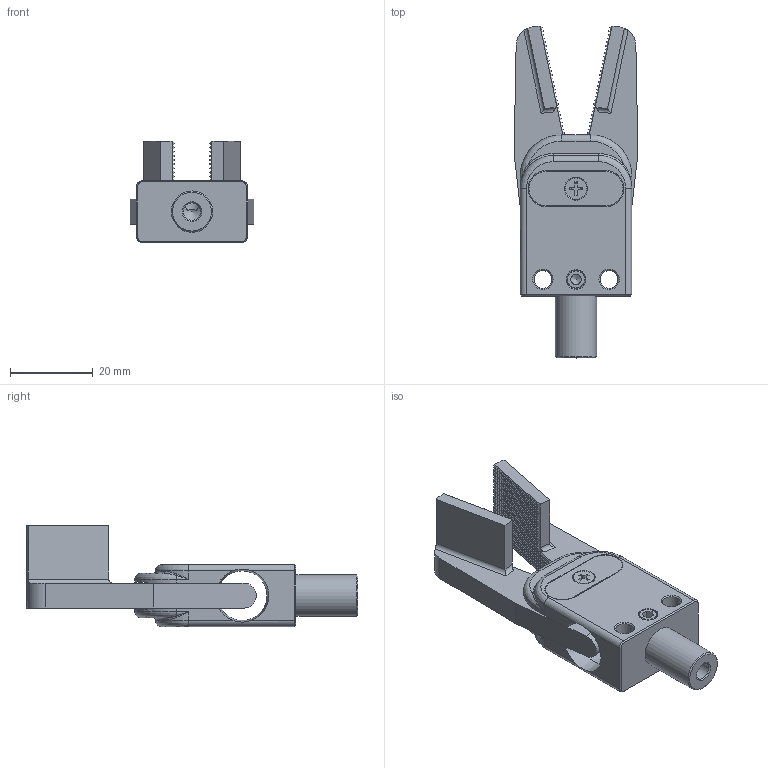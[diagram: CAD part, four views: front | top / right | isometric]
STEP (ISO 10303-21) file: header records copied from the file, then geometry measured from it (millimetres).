
FILE_DESCRIPTION(/* description */ (''),/* implementation_level */ '2;1');
FILE_NAME(/* name */ '_model1.stp',/* time_stamp */ '2023-03-08T11:59:50+08:00',/* author */ (''),/* organization */ (''),/* preprocessor_version */ 'ST-DEVELOPER v16',/* originating_system */ 'SIEMENS PLM Software NX 10.0',/* authorisation */ '');
FILE_SCHEMA (('AUTOMOTIVE_DESIGN { 1 0 10303 214 3 1 1 1 }'));
Products named in the file (1): Admi115498B06ivi
Bounding box: 29.99 x 80.35 x 24.5 mm (x, y, z)
Volume: 16793.8 mm3; surface area: 9708.1 mm2
Topology: 1 solids, 12 shells, 3229 faces, 9533 edges, 6327 vertices
Faces by surface type: plane 3106, cylinder 64, cone 39, revolution 12, bspline 8
Full cylindrical faces by diameter (mm): 2.2 x2, 2.5 x1, 3 x3, 3.5 x1, 4.2 x2, 4.3 x2, 5.2 x1, 10 x1, 12 x1
Entity records: 128042 total; most frequent: CARTESIAN_POINT 19504, ORIENTED_EDGE 18932, DIRECTION 16074, EDGE_CURVE 9466, LINE 9220, VECTOR 9220, VERTEX_POINT 6304, AXIS2_PLACEMENT_3D 3421
